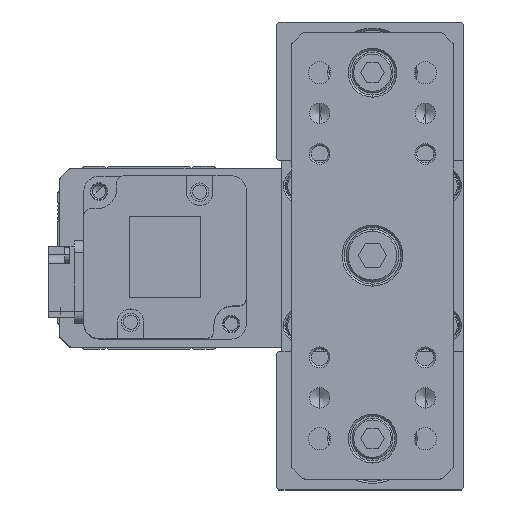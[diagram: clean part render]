
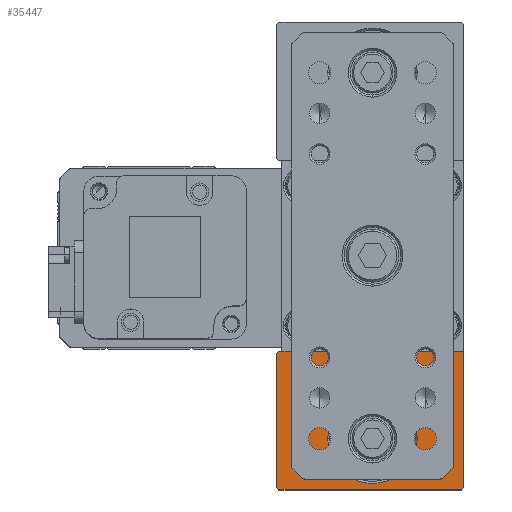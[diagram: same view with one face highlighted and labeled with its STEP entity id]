
A CAD part, top view. The second image highlights one B-rep face of the part: STEP entity #35447.
In plain terms, the highlighted planar face has unit normal (0, 0, 1).
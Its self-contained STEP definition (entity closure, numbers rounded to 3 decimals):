
#306 = CARTESIAN_POINT ( 'NONE',  ( -23.5, -24., 261. ) ) ;
#577 = VECTOR ( 'NONE', #14729, 1000. ) ;
#797 = CARTESIAN_POINT ( 'NONE',  ( 22.5, -57.5, 261. ) ) ;
#1328 = EDGE_CURVE ( 'NONE', #25138, #26660, #19451, .T. ) ;
#1488 = CARTESIAN_POINT ( 'NONE',  ( 11., -45., 261. ) ) ;
#2062 = DIRECTION ( 'NONE',  ( 0., 0., -1. ) ) ;
#2273 = VECTOR ( 'NONE', #9465, 1000. ) ;
#2688 = DIRECTION ( 'NONE',  ( 0., 0., -1. ) ) ;
#2840 = VECTOR ( 'NONE', #30259, 1000. ) ;
#3094 = CARTESIAN_POINT ( 'NONE',  ( 0., -45., 261. ) ) ;
#4181 = LINE ( 'NONE', #797, #2840 ) ;
#4581 = EDGE_CURVE ( 'NONE', #28171, #25138, #24986, .T. ) ;
#5186 = ORIENTED_EDGE ( 'NONE', *, *, #34122, .F. ) ;
#5377 = VERTEX_POINT ( 'NONE', #6738 ) ;
#5695 = EDGE_LOOP ( 'NONE', ( #7377, #21076 ) ) ;
#6049 = DIRECTION ( 'NONE',  ( -1., 0., 0. ) ) ;
#6254 = DIRECTION ( 'NONE',  ( -0.707, -0.707, 0. ) ) ;
#6738 = CARTESIAN_POINT ( 'NONE',  ( 22.5, -57., 261. ) ) ;
#7377 = ORIENTED_EDGE ( 'NONE', *, *, #27596, .T. ) ;
#7406 = CARTESIAN_POINT ( 'NONE',  ( -23., -57.5, 261. ) ) ;
#7478 = FACE_OUTER_BOUND ( 'NONE', #37439, .T. ) ;
#7514 = EDGE_CURVE ( 'NONE', #5377, #28171, #34493, .T. ) ;
#7557 = CARTESIAN_POINT ( 'NONE',  ( -11., -45., 261. ) ) ;
#8650 = VECTOR ( 'NONE', #27984, 1000. ) ;
#8848 = VERTEX_POINT ( 'NONE', #7557 ) ;
#9465 = DIRECTION ( 'NONE',  ( 0., 1., 0. ) ) ;
#9741 = CIRCLE ( 'NONE', #15047, 11. ) ;
#10112 = CARTESIAN_POINT ( 'NONE',  ( 22., -57.5, 261. ) ) ;
#10426 = VERTEX_POINT ( 'NONE', #1488 ) ;
#11416 = CARTESIAN_POINT ( 'NONE',  ( 22.5, -57.5, 261. ) ) ;
#11558 = VECTOR ( 'NONE', #6254, 1000. ) ;
#12087 = ORIENTED_EDGE ( 'NONE', *, *, #7514, .T. ) ;
#12423 = CARTESIAN_POINT ( 'NONE',  ( -23.5, -24., 261. ) ) ;
#12556 = AXIS2_PLACEMENT_3D ( 'NONE', #11416, #2688, #23261 ) ;
#14121 = ORIENTED_EDGE ( 'NONE', *, *, #1328, .T. ) ;
#14173 = CARTESIAN_POINT ( 'NONE',  ( 22., -57.5, 261. ) ) ;
#14363 = FACE_BOUND ( 'NONE', #5695, .T. ) ;
#14729 = DIRECTION ( 'NONE',  ( -1., 0., 0. ) ) ;
#14903 = CIRCLE ( 'NONE', #37966, 11. ) ;
#15047 = AXIS2_PLACEMENT_3D ( 'NONE', #3094, #23658, #6049 ) ;
#15194 = EDGE_CURVE ( 'NONE', #37281, #16681, #31176, .T. ) ;
#15879 = CARTESIAN_POINT ( 'NONE',  ( -23., -57.5, 261. ) ) ;
#16071 = DIRECTION ( 'NONE',  ( 0., 1., 0. ) ) ;
#16382 = ORIENTED_EDGE ( 'NONE', *, *, #17846, .T. ) ;
#16681 = VERTEX_POINT ( 'NONE', #15879 ) ;
#16931 = VERTEX_POINT ( 'NONE', #14173 ) ;
#17391 = PLANE ( 'NONE',  #12556 ) ;
#17753 = CARTESIAN_POINT ( 'NONE',  ( 22.5, -23.5, 261. ) ) ;
#17846 = EDGE_CURVE ( 'NONE', #16931, #5377, #20466, .T. ) ;
#19380 = ORIENTED_EDGE ( 'NONE', *, *, #36225, .F. ) ;
#19451 = LINE ( 'NONE', #306, #11558 ) ;
#19578 = VECTOR ( 'NONE', #24898, 1000. ) ;
#19723 = CARTESIAN_POINT ( 'NONE',  ( 0., -45., 261. ) ) ;
#20409 = EDGE_CURVE ( 'NONE', #8848, #10426, #14903, .T. ) ;
#20466 = LINE ( 'NONE', #10112, #19578 ) ;
#21076 = ORIENTED_EDGE ( 'NONE', *, *, #20409, .T. ) ;
#21176 = CARTESIAN_POINT ( 'NONE',  ( 22.5, -57.5, 261. ) ) ;
#22648 = DIRECTION ( 'NONE',  ( -1., 0., 0. ) ) ;
#23222 = VECTOR ( 'NONE', #16071, 1000. ) ;
#23261 = DIRECTION ( 'NONE',  ( -1., 0., 0. ) ) ;
#23595 = CARTESIAN_POINT ( 'NONE',  ( 22.5, -23.5, 261. ) ) ;
#23658 = DIRECTION ( 'NONE',  ( 0., 0., -1. ) ) ;
#24494 = ORIENTED_EDGE ( 'NONE', *, *, #4581, .T. ) ;
#24801 = CARTESIAN_POINT ( 'NONE',  ( -23.5, -57.5, 261. ) ) ;
#24898 = DIRECTION ( 'NONE',  ( 0.707, 0.707, 0. ) ) ;
#24986 = LINE ( 'NONE', #23595, #577 ) ;
#25138 = VERTEX_POINT ( 'NONE', #31762 ) ;
#26660 = VERTEX_POINT ( 'NONE', #12423 ) ;
#27596 = EDGE_CURVE ( 'NONE', #10426, #8848, #9741, .T. ) ;
#27984 = DIRECTION ( 'NONE',  ( 0.707, -0.707, 0. ) ) ;
#28171 = VERTEX_POINT ( 'NONE', #17753 ) ;
#29897 = CARTESIAN_POINT ( 'NONE',  ( -23.5, -57., 261. ) ) ;
#30259 = DIRECTION ( 'NONE',  ( -1., 0., 0. ) ) ;
#31033 = LINE ( 'NONE', #24801, #23222 ) ;
#31176 = LINE ( 'NONE', #7406, #8650 ) ;
#31662 = ORIENTED_EDGE ( 'NONE', *, *, #15194, .T. ) ;
#31762 = CARTESIAN_POINT ( 'NONE',  ( -23., -23.5, 261. ) ) ;
#34122 = EDGE_CURVE ( 'NONE', #37281, #26660, #31033, .T. ) ;
#34493 = LINE ( 'NONE', #21176, #2273 ) ;
#35447 = ADVANCED_FACE ( 'NONE', ( #14363, #7478 ), #17391, .F. ) ;
#36225 = EDGE_CURVE ( 'NONE', #16931, #16681, #4181, .T. ) ;
#37281 = VERTEX_POINT ( 'NONE', #29897 ) ;
#37439 = EDGE_LOOP ( 'NONE', ( #19380, #16382, #12087, #24494, #14121, #5186, #31662 ) ) ;
#37966 = AXIS2_PLACEMENT_3D ( 'NONE', #19723, #2062, #22648 ) ;
